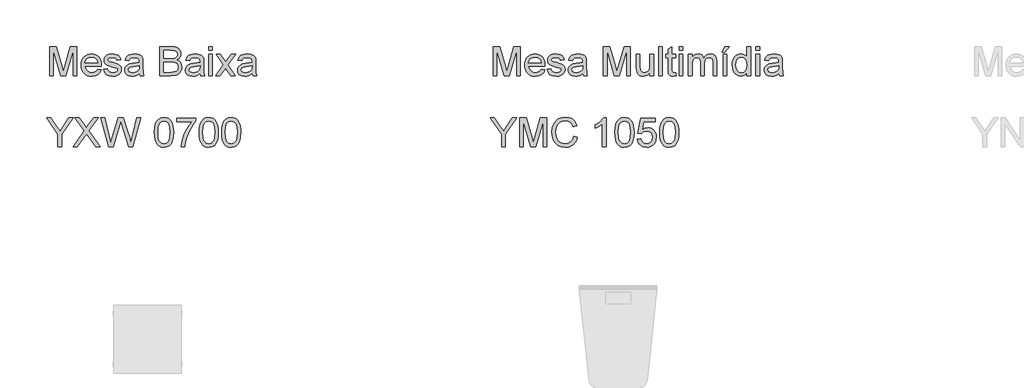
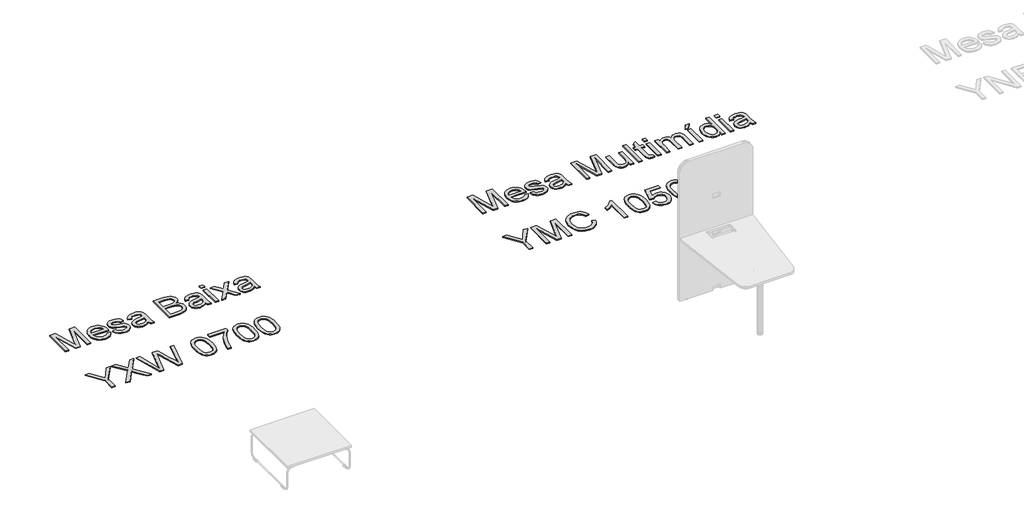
# One storey, part 23 of 26: 2 proxies.
"""IFC4 building model written with IfcOpenShell, lengths in millimetres."""

from ifc_helpers import new_model, si_unit, origin, origin_with_axes, place, context, project, spatial, polyline, outline, extrude, element, save

model = new_model("IFC4")

# Units and contexts
model_context = context("Model", 3, world=origin())
ifc_project = project(units=[si_unit("LENGTHUNIT", "METRE", prefix="MILLI")], contexts=[model_context])

# Site, building, storey
site = spatial("IfcSite", under=ifc_project)
building = spatial("IfcBuilding", under=site)
storey = spatial("IfcBuildingStorey", under=building, Name="Marelli - Linha YOUNG - Planta Baixa", Elevation=0.0)

# Proxies
placement = place(None, origin())
element("IfcBuildingElementProxy", 1, Name="300mm Arial", ObjectType="300mm Arial", at=placement, inside=storey, context=model_context, shape_type="SweptSolid", body=[
    extrude(outline(polyline([(-10155.2324867, 12585.3581335), (-10155.2324867, 12886.7270639), (-10090.4116792, 12886.7270639), (-10028.7546568, 12674.3119999), (-10016.3202454, 12629.9454313), (-10002.8557643, 12677.9908199), (-9942.2288115, 12886.7270639), (-9877.408004, 12886.7270639), (-9877.408004, 12585.3581335), (-9915.0791203, 12585.3581335), (-9915.0791203, 12849.0559476), (-9990.7892349, 12585.3581335), (-10041.8512558, 12585.3581335), (-10117.5613704, 12849.0559476), (-10117.5613704, 12585.3581335), (-10155.2324867, 12585.3581335)])), origin_with_axes(), (0.0, 0.0, 1.0), 10.0),
    extrude(outline(polyline([(-9661.2405436, 12651.282587), (-9624.3051913, 12646.5736975), (-9637.6133225, 12618.7434245), (-9658.8493107, 12597.9396977), (-9687.5349092, 12584.9718574), (-9723.1918716, 12580.6492439), (-9746.5661739, 12582.5139458), (-9767.3928933, 12588.1080514), (-9785.67203, 12597.4315607), (-9801.4035838, 12610.4844737), (-9814.0541259, 12626.903507), (-9823.0902274, 12646.3253771), (-9828.5118883, 12668.750084), (-9830.3191086, 12694.1776276), (-9828.4934942, 12720.4673947), (-9823.016651, 12743.6393619), (-9813.888579, 12763.6935292), (-9801.1092782, 12780.6298965), (-9785.4191111, 12794.0851805), (-9767.5584402, 12803.6960976), (-9747.5272656, 12809.4626479), (-9725.3255872, 12811.3848313), (-9703.8389794, 12809.4672464), (-9684.4079123, 12803.7144917), (-9667.0323858, 12794.1265672), (-9651.7123999, 12780.7034729), (-9639.2067114, 12763.8038938), (-9630.2740767, 12743.7865147), (-9624.9144959, 12720.6513357), (-9623.1279689, 12694.3983568), (-9623.3486981, 12684.2448138), (-9792.6479923, 12684.2448138), (-9786.1272839, 12656.0466588), (-9770.9797428, 12635.3165084), (-9749.1183552, 12622.5693973), (-9722.4561076, 12618.3203602), (-9702.4065389, 12620.2885289), (-9685.5207553, 12626.1930349), (-9671.7987569, 12636.4017603), (-9661.2405436, 12651.282587)]), holes=[polyline([(-9792.6479923, 12721.9159301), (-9660.7990852, 12721.9159301), (-9665.8942509, 12741.818346), (-9675.882247, 12756.0553792), (-9697.8448021, 12769.2991311), (-9725.47274, 12773.713715), (-9750.8657947, 12770.1912449), (-9771.8626596, 12759.6238346), (-9786.4583777, 12743.1519182), (-9792.6479923, 12721.9159301)])]), origin_with_axes(), (0.0, 0.0, 1.0), 10.0),
    extrude(outline(polyline([(-9599.5835212, 12651.282587), (-9561.9124049, 12655.9914765), (-9555.9711107, 12639.8782452), (-9544.4747984, 12628.0324449), (-9527.3498915, 12620.7483814), (-9504.5228137, 12618.3203602), (-9481.9716474, 12620.5460463), (-9466.1159334, 12627.2231045), (-9456.7349425, 12636.898401), (-9453.6079455, 12648.1188018), (-9456.7533366, 12657.7205219), (-9466.1895098, 12665.0413736), (-9504.9642721, 12675.7835279), (-9561.6916757, 12694.2144158), (-9576.0482706, 12703.4758451), (-9586.450134, 12715.7355126), (-9592.7685073, 12730.2116691), (-9594.8746317, 12746.1225654), (-9593.1823745, 12760.7182835), (-9588.105603, 12774.1919616), (-9580.1041696, 12786.0101707), (-9569.6379268, 12795.6394819), (-9545.6888089, 12806.7863064), (-9513.2784052, 12811.3848313), (-9488.7590702, 12809.5362243), (-9467.4403086, 12803.9904032), (-9450.2970076, 12795.289994), (-9438.3040545, 12783.9776227), (-9430.3578034, 12769.2163576), (-9425.3546083, 12750.1692673), (-9463.0257246, 12745.4603778), (-9467.7805994, 12757.3153751), (-9477.1891814, 12766.2457105), (-9491.3434412, 12771.8467139), (-9510.3353492, 12773.713715), (-9531.9668105, 12771.9294873), (-9546.3877847, 12766.5768043), (-9554.4995827, 12758.8512824), (-9557.2035154, 12749.9485381), (-9552.715355, 12738.9856547), (-9538.6622628, 12730.6715216), (-9506.2150709, 12722.6516941), (-9450.922407, 12704.9197819), (-9436.3174918, 12696.4401019), (-9425.2442437, 12684.833425), (-9418.2636829, 12670.0629629), (-9415.9368292, 12652.0919274), (-9418.668353, 12633.5138866), (-9426.8629245, 12616.0394919), (-9440.2078439, 12601.0391035), (-9458.3904115, 12589.883082), (-9480.3529666, 12582.9577034), (-9505.0378485, 12580.6492439), (-9543.0216645, 12585.1006161), (-9570.7415728, 12598.4547325), (-9589.2460372, 12620.5644404), (-9599.5835212, 12651.282587)])), origin_with_axes(), (0.0, 0.0, 1.0), 10.0),
    extrude(outline(polyline([(-9232.2901372, 12613.6114707), (-9250.2887639, 12598.178821), (-9268.8208194, 12588.0804602), (-9288.3093681, 12582.507048), (-9309.1774742, 12580.6492439), (-9340.658976, 12585.1190102), (-9363.8815269, 12598.5283089), (-9378.2013336, 12618.8905773), (-9382.9746025, 12644.2192527), (-9381.1719807, 12659.8358434), (-9375.7641154, 12674.0176943), (-9367.4223911, 12686.1578001), (-9356.8181926, 12695.6491556), (-9330.4410536, 12708.0099907), (-9297.8467088, 12713.6753734), (-9259.3294639, 12719.6350617), (-9232.5108664, 12726.6248196), (-9232.2901372, 12735.0125291), (-9234.8837053, 12751.8247363), (-9242.6644095, 12762.8244079), (-9260.0652279, 12770.9913882), (-9284.3086514, 12773.713715), (-9306.7494531, 12771.9018962), (-9322.4212261, 12766.4664397), (-9333.108198, 12756.4140642), (-9340.5945966, 12740.7514882), (-9378.2657129, 12745.4603778), (-9371.7266105, 12766.0617695), (-9361.9685405, 12782.2485773), (-9348.0809952, 12794.6278064), (-9329.1534666, 12803.8064622), (-9306.004492, 12809.490239), (-9279.452609, 12811.3848313), (-9253.9859779, 12809.7109682), (-9233.7984534, 12804.689379), (-9218.5773359, 12797.138601), (-9208.0099256, 12787.8771718), (-9201.0017736, 12776.4268447), (-9196.4584309, 12762.3093731), (-9194.6190209, 12729.3471464), (-9194.6190209, 12682.4789802), (-9192.7060346, 12617.0327733), (-9185.2012419, 12585.3581335), (-9222.8723582, 12585.3581335), (-9232.2901372, 12613.6114707)]), holes=[polyline([(-9232.2901372, 12688.9537033), (-9293.0642428, 12677.4022087), (-9325.4746466, 12671.2953675), (-9340.1531382, 12661.3625537), (-9345.3034862, 12646.8680031), (-9342.4983859, 12635.6659963), (-9334.0830853, 12626.4873405), (-9320.2415252, 12620.3621053), (-9301.1576467, 12618.3203602), (-9280.924137, 12620.5736375), (-9263.045072, 12627.3334691), (-9248.5505214, 12637.2938741), (-9238.4705548, 12649.1488714), (-9234.0007885, 12661.3625537), (-9232.5108664, 12678.2851254), (-9232.2901372, 12688.9537033)])]), origin_with_axes(), (0.0, 0.0, 1.0), 10.0),
    extrude(outline(polyline([(-9020.390108, 12585.3581335), (-9020.390108, 12886.7270639), (-8905.3901963, 12886.7270639), (-8873.7615418, 12884.5105749), (-8849.0674629, 12877.8611078), (-8830.1399342, 12866.6131158), (-8815.8109305, 12850.601052), (-8806.7886246, 12831.7654938), (-8803.7811893, 12812.0470189), (-8806.310378, 12793.9012395), (-8813.8979441, 12776.840712), (-8826.59907, 12761.9139), (-8844.4689379, 12750.1692673), (-8823.1225852, 12739.0224429), (-8807.3496446, 12722.0630829), (-8797.6099688, 12700.4132275), (-8794.3634102, 12675.1949167), (-8796.5798992, 12654.1796577), (-8803.2293663, 12634.691109), (-8813.1529831, 12618.1180251), (-8825.1919214, 12605.8491606), (-8839.9347923, 12596.9648104), (-8857.9702072, 12590.5452696), (-8906.2731131, 12585.3581335), (-9020.390108, 12585.3581335)]), holes=[polyline([(-8982.7189917, 12764.2959359), (-8913.9250586, 12764.2959359), (-8873.7523447, 12767.5332975), (-8859.6900555, 12773.1159068), (-8849.5824977, 12781.4760251), (-8843.4848536, 12792.4848938), (-8841.4523056, 12806.0137542), (-8843.3468978, 12819.1471414), (-8849.0306747, 12830.5882715), (-8858.2461186, 12839.5186069), (-8870.7357124, 12845.1196103), (-8919.1489829, 12849.0559476), (-8982.7189917, 12849.0559476), (-8982.7189917, 12764.2959359)]), polyline([(-8982.7189917, 12623.0292498), (-8905.4637727, 12623.0292498), (-8877.5047411, 12624.5007778), (-8853.8499288, 12632.7045462), (-8838.1781558, 12649.443177), (-8833.5704338, 12661.2705832), (-8832.0345265, 12674.8270347), (-8833.8371483, 12690.5723841), (-8839.2450136, 12704.1104415), (-8848.6903838, 12714.6962459), (-8862.6055203, 12721.5848363), (-8882.3147982, 12725.3648238), (-8909.1425927, 12726.6248196), (-8982.7189917, 12726.6248196), (-8982.7189917, 12623.0292498)])]), origin_with_axes(), (0.0, 0.0, 1.0), 10.0),
    extrude(outline(polyline([(-8606.0078287, 12613.6114707), (-8624.0064553, 12598.178821), (-8642.5385108, 12588.0804602), (-8662.0270595, 12582.507048), (-8682.8951656, 12580.6492439), (-8714.3766674, 12585.1190102), (-8737.5992183, 12598.5283089), (-8751.919025, 12618.8905773), (-8756.6922939, 12644.2192527), (-8754.8896721, 12659.8358434), (-8749.4818068, 12674.0176943), (-8741.1400825, 12686.1578001), (-8730.535884, 12695.6491556), (-8704.158745, 12708.0099907), (-8671.5644002, 12713.6753734), (-8633.0471553, 12719.6350617), (-8606.2285579, 12726.6248196), (-8606.0078287, 12735.0125291), (-8608.6013967, 12751.8247363), (-8616.3821009, 12762.8244079), (-8633.7829193, 12770.9913882), (-8658.0263428, 12773.713715), (-8680.4671445, 12771.9018962), (-8696.1389175, 12766.4664397), (-8706.8258894, 12756.4140642), (-8714.312288, 12740.7514882), (-8751.9834043, 12745.4603778), (-8745.4443019, 12766.0617695), (-8735.686232, 12782.2485773), (-8721.7986866, 12794.6278064), (-8702.871158, 12803.8064622), (-8679.7221834, 12809.490239), (-8653.1703004, 12811.3848313), (-8627.7036693, 12809.7109682), (-8607.5161448, 12804.689379), (-8592.2950273, 12797.138601), (-8581.727617, 12787.8771718), (-8574.719465, 12776.4268447), (-8570.1761223, 12762.3093731), (-8568.3367123, 12729.3471464), (-8568.3367123, 12682.4789802), (-8566.423726, 12617.0327733), (-8558.9189333, 12585.3581335), (-8596.5900496, 12585.3581335), (-8606.0078287, 12613.6114707)]), holes=[polyline([(-8606.0078287, 12688.9537033), (-8666.7819343, 12677.4022087), (-8699.192338, 12671.2953675), (-8713.8708296, 12661.3625537), (-8719.0211776, 12646.8680031), (-8716.2160774, 12635.6659963), (-8707.8007767, 12626.4873405), (-8693.9592167, 12620.3621053), (-8674.8753382, 12618.3203602), (-8654.6418284, 12620.5736375), (-8636.7627635, 12627.3334691), (-8622.2682128, 12637.2938741), (-8612.1882462, 12649.1488714), (-8607.7184799, 12661.3625537), (-8606.2285579, 12678.2851254), (-8606.0078287, 12688.9537033)])]), origin_with_axes(), (0.0, 0.0, 1.0), 10.0),
    extrude(outline(polyline([(-8516.5389274, 12849.0559476), (-8516.5389274, 12886.7270639), (-8478.8678111, 12886.7270639), (-8478.8678111, 12849.0559476), (-8516.5389274, 12849.0559476)])), origin_with_axes(), (0.0, 0.0, 1.0), 10.0),
    extrude(outline(polyline([(-8516.5389274, 12585.3581335), (-8516.5389274, 12806.6759418), (-8478.8678111, 12806.6759418), (-8478.8678111, 12585.3581335), (-8516.5389274, 12585.3581335)])), origin_with_axes(), (0.0, 0.0, 1.0), 10.0),
    extrude(outline(polyline([(-8445.9055844, 12585.3581335), (-8365.4130038, 12696.6056488), (-8441.1966948, 12806.6759418), (-8395.873633, 12806.6759418), (-8359.3061627, 12753.7009345), (-8342.2364381, 12728.6849588), (-8327.4475819, 12749.1391977), (-8285.8033401, 12806.6759418), (-8240.4802782, 12806.6759418), (-8320.089942, 12696.6056488), (-8243.4233342, 12585.3581335), (-8288.746396, 12585.3581335), (-8334.8787982, 12652.2390802), (-8343.3400841, 12664.4527624), (-8400.5825225, 12585.3581335), (-8445.9055844, 12585.3581335)])), origin_with_axes(), (0.0, 0.0, 1.0), 10.0),
    extrude(outline(polyline([(-8069.1944213, 12613.6114707), (-8087.1930479, 12598.178821), (-8105.7251034, 12588.0804602), (-8125.2136521, 12582.507048), (-8146.0817583, 12580.6492439), (-8177.56326, 12585.1190102), (-8200.785811, 12598.5283089), (-8215.1056176, 12618.8905773), (-8219.8788865, 12644.2192527), (-8218.0762647, 12659.8358434), (-8212.6683994, 12674.0176943), (-8204.3266752, 12686.1578001), (-8193.7224767, 12695.6491556), (-8167.3453376, 12708.0099907), (-8134.7509928, 12713.6753734), (-8096.2337479, 12719.6350617), (-8069.4151505, 12726.6248196), (-8069.1944213, 12735.0125291), (-8071.7879894, 12751.8247363), (-8079.5686936, 12762.8244079), (-8096.9695119, 12770.9913882), (-8121.2129354, 12773.713715), (-8143.6537371, 12771.9018962), (-8159.3255101, 12766.4664397), (-8170.0124821, 12756.4140642), (-8177.4988807, 12740.7514882), (-8215.169997, 12745.4603778), (-8208.6308945, 12766.0617695), (-8198.8728246, 12782.2485773), (-8184.9852793, 12794.6278064), (-8166.0577506, 12803.8064622), (-8142.9087761, 12809.490239), (-8116.3568931, 12811.3848313), (-8090.890262, 12809.7109682), (-8070.7027375, 12804.689379), (-8055.4816199, 12797.138601), (-8044.9142096, 12787.8771718), (-8037.9060576, 12776.4268447), (-8033.362715, 12762.3093731), (-8031.523305, 12729.3471464), (-8031.523305, 12682.4789802), (-8029.6103186, 12617.0327733), (-8022.1055259, 12585.3581335), (-8059.7766422, 12585.3581335), (-8069.1944213, 12613.6114707)]), holes=[polyline([(-8069.1944213, 12688.9537033), (-8129.9685269, 12677.4022087), (-8162.3789307, 12671.2953675), (-8177.0574223, 12661.3625537), (-8182.2077702, 12646.8680031), (-8179.40267, 12635.6659963), (-8170.9873694, 12626.4873405), (-8157.1458093, 12620.3621053), (-8138.0619308, 12618.3203602), (-8117.8284211, 12620.5736375), (-8099.9493561, 12627.3334691), (-8085.4548055, 12637.2938741), (-8075.3748388, 12649.1488714), (-8070.9050726, 12661.3625537), (-8069.4151505, 12678.2851254), (-8069.1944213, 12688.9537033)])]), origin_with_axes(), (0.0, 0.0, 1.0), 10.0),
    extrude(outline(polyline([(-9915.0791203, 11853.5092264), (-9798.9019862, 12017.731749), (-9896.2435621, 12154.8781568), (-9851.0676531, 12154.8781568), (-9796.2532358, 12077.6965143), (-9777.7855597, 12047.6037671), (-9756.1540984, 12078.2115491), (-9701.9282923, 12154.8781568), (-9656.0901957, 12154.8781568), (-9753.4317716, 12017.2902906), (-9637.2546375, 11853.5092264), (-9682.4305465, 11853.5092264), (-9759.8329183, 11962.6966026), (-9775.9461497, 11985.3581335), (-9793.6780619, 11960.4893106), (-9869.2410237, 11853.5092264), (-9915.0791203, 11853.5092264)])), origin_with_axes(), (0.0, 0.0, 1.0), 10.0),
    extrude(outline(polyline([(-10070.4724751, 11853.5092264), (-10070.4724751, 11981.1642787), (-10188.1947135, 12154.8781568), (-10143.7545685, 12154.8781568), (-10080.9203237, 12062.0983177), (-10048.7674373, 12014.7886931), (-10016.5409746, 12065.482832), (-9959.5192653, 12154.8781568), (-9915.0791203, 12154.8781568), (-10032.8013587, 11981.1642787), (-10032.8013587, 11853.5092264), (-10070.4724751, 11853.5092264)])), origin_with_axes(), (0.0, 0.0, 1.0), 10.0),
    extrude(outline(polyline([(-9545.6520207, 11853.5092264), (-9627.8368585, 12154.8781568), (-9588.9885198, 12154.8781568), (-9541.3110132, 11956.8104906), (-9526.5957334, 11895.668503), (-9510.850384, 11949.7471563), (-9451.106348, 12154.8781568), (-9395.1147083, 12154.8781568), (-9351.7046329, 12006.1802544), (-9333.108198, 11950.9979551), (-9319.4045937, 11895.668503), (-9305.1307723, 11955.0446571), (-9257.0118073, 12154.8781568), (-9218.1634686, 12154.8781568), (-9300.4218828, 11853.5092264), (-9340.668173, 11853.5092264), (-9412.9201969, 12086.0106473), (-9423.0001635, 12118.4578393), (-9434.330929, 12079.3887714), (-9500.1818061, 11853.5092264), (-9545.6520207, 11853.5092264)])), origin_with_axes(), (0.0, 0.0, 1.0), 10.0),
    extrude(outline(polyline([(-9076.8967825, 12001.7656705), (-9074.1284705, 12050.0041971), (-9065.8235344, 12088.4754567), (-9052.0647478, 12117.7680606), (-9032.9348841, 12138.4706199), (-9008.2959874, 12150.7762726), (-8978.0101022, 12154.8781568), (-8954.7967483, 12152.4501357), (-8934.0114156, 12145.1660722), (-8916.6289913, 12133.3110749), (-8903.6243628, 12117.1702523), (-8893.8019135, 12096.8815603), (-8885.966027, 12072.5829545), (-8880.8340732, 12041.7268522), (-8879.1234219, 12001.7656705), (-8881.8641427, 11953.8030553), (-8890.0863053, 11915.4237662), (-8903.7623185, 11886.1035712), (-8922.8645911, 11865.3182384), (-8947.55867, 11852.9298123), (-8978.0101022, 11848.8003369), (-8998.7586467, 11850.5937616), (-9017.1527465, 11855.9740358), (-9033.1924015, 11864.9411594), (-9046.8776117, 11877.4951325), (-9060.0109989, 11900.1888531), (-9069.3919898, 11928.4651829), (-9075.0205843, 11962.324122), (-9076.8967825, 12001.7656705)]), holes=[polyline([(-9039.2256662, 12001.8392469), (-9034.8110822, 11942.5826545), (-9029.2928523, 11922.3146558), (-9021.5673304, 11908.2868555), (-9001.8488555, 11891.9253037), (-8978.0101022, 11886.4714532), (-8954.1713489, 11891.9436978), (-8934.4528739, 11908.3604319), (-8926.727352, 11922.4112248), (-8921.2091221, 11942.674625), (-8916.7945382, 12001.8392469), (-8921.0619693, 12059.762267), (-8926.3962583, 12079.9635871), (-8933.8642628, 12094.3247804), (-8953.5459495, 12111.4864755), (-8978.4515606, 12117.2070405), (-9002.0327965, 12112.1670572), (-9020.9787192, 12097.0471072), (-9028.9617585, 12081.4121224), (-9034.6639294, 12060.3324841), (-9039.2256662, 12001.8392469)])]), origin_with_axes(), (0.0, 0.0, 1.0), 10.0),
    extrude(outline(polyline([(-8846.1611951, 12112.498151), (-8846.1611951, 12150.1692673), (-8648.3878345, 12150.1692673), (-8648.3878345, 12119.7086381), (-8676.5767924, 12084.0332816), (-8704.4898388, 12038.6642346), (-8729.1103413, 11987.7401694), (-8747.4216676, 11935.3997585), (-8756.3979883, 11896.2387201), (-8761.4011834, 11853.5092264), (-8799.0722997, 11853.5092264), (-8794.9980066, 11892.339171), (-8784.0995025, 11938.4899673), (-8766.671093, 11987.4090756), (-8743.0070837, 12034.5439562), (-8715.3791458, 12077.1538883), (-8686.0589508, 12112.498151), (-8846.1611951, 12112.498151)])), origin_with_axes(), (0.0, 0.0, 1.0), 10.0),
    extrude(outline(polyline([(-8615.4256077, 12001.7656705), (-8612.6572957, 12050.0041971), (-8604.3523597, 12088.4754567), (-8590.5935731, 12117.7680606), (-8571.4637093, 12138.4706199), (-8546.8248127, 12150.7762726), (-8516.5389274, 12154.8781568), (-8493.3255735, 12152.4501357), (-8472.5402408, 12145.1660722), (-8455.1578165, 12133.3110749), (-8442.153188, 12117.1702523), (-8432.3307387, 12096.8815603), (-8424.4948522, 12072.5829545), (-8419.3628984, 12041.7268522), (-8417.6522471, 12001.7656705), (-8420.392968, 11953.8030553), (-8428.6151306, 11915.4237662), (-8442.2911438, 11886.1035712), (-8461.3934164, 11865.3182384), (-8486.0874953, 11852.9298123), (-8516.5389274, 11848.8003369), (-8537.287472, 11850.5937616), (-8555.6815717, 11855.9740358), (-8571.7212267, 11864.9411594), (-8585.4064369, 11877.4951325), (-8598.5398242, 11900.1888531), (-8607.920815, 11928.4651829), (-8613.5494096, 11962.324122), (-8615.4256077, 12001.7656705)]), holes=[polyline([(-8577.7544914, 12001.8392469), (-8573.3399075, 11942.5826545), (-8567.8216776, 11922.3146558), (-8560.0961557, 11908.2868555), (-8540.3776807, 11891.9253037), (-8516.5389274, 11886.4714532), (-8492.7001741, 11891.9436978), (-8472.9816992, 11908.3604319), (-8465.2561773, 11922.4112248), (-8459.7379474, 11942.674625), (-8455.3233634, 12001.8392469), (-8459.5907946, 12059.762267), (-8464.9250835, 12079.9635871), (-8472.393088, 12094.3247804), (-8492.0747747, 12111.4864755), (-8516.9803858, 12117.2070405), (-8540.5616217, 12112.1670572), (-8559.5075445, 12097.0471072), (-8567.4905838, 12081.4121224), (-8573.1927547, 12060.3324841), (-8577.7544914, 12001.8392469)])]), origin_with_axes(), (0.0, 0.0, 1.0), 10.0),
    extrude(outline(polyline([(-8384.6900204, 12001.7656705), (-8381.9217083, 12050.0041971), (-8373.6167723, 12088.4754567), (-8359.8579857, 12117.7680606), (-8340.7281219, 12138.4706199), (-8316.0892253, 12150.7762726), (-8285.8033401, 12154.8781568), (-8262.5899862, 12152.4501357), (-8241.8046534, 12145.1660722), (-8224.4222292, 12133.3110749), (-8211.4176006, 12117.1702523), (-8201.5951514, 12096.8815603), (-8193.7592649, 12072.5829545), (-8188.627311, 12041.7268522), (-8186.9166597, 12001.7656705), (-8189.6573806, 11953.8030553), (-8197.8795432, 11915.4237662), (-8211.5555564, 11886.1035712), (-8230.657829, 11865.3182384), (-8255.3519079, 11852.9298123), (-8285.8033401, 11848.8003369), (-8306.5518846, 11850.5937616), (-8324.9459843, 11855.9740358), (-8340.9856393, 11864.9411594), (-8354.6708495, 11877.4951325), (-8367.8042368, 11900.1888531), (-8377.1852277, 11928.4651829), (-8382.8138222, 11962.324122), (-8384.6900204, 12001.7656705)]), holes=[polyline([(-8347.018904, 12001.8392469), (-8342.6043201, 11942.5826545), (-8337.0860902, 11922.3146558), (-8329.3605683, 11908.2868555), (-8309.6420933, 11891.9253037), (-8285.8033401, 11886.4714532), (-8261.9645868, 11891.9436978), (-8242.2461118, 11908.3604319), (-8234.5205899, 11922.4112248), (-8229.00236, 11942.674625), (-8224.5877761, 12001.8392469), (-8228.8552072, 12059.762267), (-8234.1894961, 12079.9635871), (-8241.6575006, 12094.3247804), (-8261.3391874, 12111.4864755), (-8286.2447984, 12117.2070405), (-8309.8260343, 12112.1670572), (-8328.7719571, 12097.0471072), (-8336.7549964, 12081.4121224), (-8342.4571673, 12060.3324841), (-8347.018904, 12001.8392469)])]), origin_with_axes(), (0.0, 0.0, 1.0), 10.0),
])
element("IfcBuildingElementProxy", 2, Name="300mm Arial", ObjectType="300mm Arial", at=placement, inside=storey, context=model_context, shape_type="SweptSolid", body=[
    extrude(outline(polyline([(-5583.7414347, 12585.3581335), (-5583.7414347, 12886.7270639), (-5518.9206272, 12886.7270639), (-5457.2636048, 12674.3119999), (-5444.8291933, 12629.9454313), (-5431.3647123, 12677.9908199), (-5370.7377595, 12886.7270639), (-5305.916952, 12886.7270639), (-5305.916952, 12585.3581335), (-5343.5880683, 12585.3581335), (-5343.5880683, 12849.0559476), (-5419.2981829, 12585.3581335), (-5470.3602038, 12585.3581335), (-5546.0703184, 12849.0559476), (-5546.0703184, 12585.3581335), (-5583.7414347, 12585.3581335)])), origin_with_axes(), (0.0, 0.0, 1.0), 10.0),
    extrude(outline(polyline([(-5089.7494916, 12651.282587), (-5052.8141393, 12646.5736975), (-5066.1222705, 12618.7434245), (-5087.3582586, 12597.9396977), (-5116.0438572, 12584.9718574), (-5151.7008196, 12580.6492439), (-5175.0751219, 12582.5139458), (-5195.9018413, 12588.1080514), (-5214.1809779, 12597.4315607), (-5229.9125318, 12610.4844737), (-5242.5630739, 12626.903507), (-5251.5991754, 12646.3253771), (-5257.0208363, 12668.750084), (-5258.8280566, 12694.1776276), (-5257.0024422, 12720.4673947), (-5251.525599, 12743.6393619), (-5242.397527, 12763.6935292), (-5229.6182262, 12780.6298965), (-5213.9280591, 12794.0851805), (-5196.0673882, 12803.6960976), (-5176.0362136, 12809.4626479), (-5153.8345352, 12811.3848313), (-5132.3479274, 12809.4672464), (-5112.9168602, 12803.7144917), (-5095.5413338, 12794.1265672), (-5080.2213479, 12780.7034729), (-5067.7156594, 12763.8038938), (-5058.7830247, 12743.7865147), (-5053.4234438, 12720.6513357), (-5051.6369169, 12694.3983568), (-5051.8576461, 12684.2448138), (-5221.1569403, 12684.2448138), (-5214.6362319, 12656.0466588), (-5199.4886908, 12635.3165084), (-5177.6273032, 12622.5693973), (-5150.9650556, 12618.3203602), (-5130.9154869, 12620.2885289), (-5114.0297033, 12626.1930349), (-5100.3077049, 12636.4017603), (-5089.7494916, 12651.282587)]), holes=[polyline([(-5221.1569403, 12721.9159301), (-5089.3080332, 12721.9159301), (-5094.4031988, 12741.818346), (-5104.391195, 12756.0553792), (-5126.3537501, 12769.2991311), (-5153.981688, 12773.713715), (-5179.3747427, 12770.1912449), (-5200.3716076, 12759.6238346), (-5214.9673257, 12743.1519182), (-5221.1569403, 12721.9159301)])]), origin_with_axes(), (0.0, 0.0, 1.0), 10.0),
    extrude(outline(polyline([(-5028.0924692, 12651.282587), (-4990.4213529, 12655.9914765), (-4984.4800587, 12639.8782452), (-4972.9837463, 12628.0324449), (-4955.8588395, 12620.7483814), (-4933.0317617, 12618.3203602), (-4910.4805954, 12620.5460463), (-4894.6248814, 12627.2231045), (-4885.2438905, 12636.898401), (-4882.1168935, 12648.1188018), (-4885.2622846, 12657.7205219), (-4894.6984578, 12665.0413736), (-4933.4732201, 12675.7835279), (-4990.2006237, 12694.2144158), (-5004.5572186, 12703.4758451), (-5014.959082, 12715.7355126), (-5021.2774552, 12730.2116691), (-5023.3835797, 12746.1225654), (-5021.6913225, 12760.7182835), (-5016.614551, 12774.1919616), (-5008.6131176, 12786.0101707), (-4998.1468748, 12795.6394819), (-4974.1977569, 12806.7863064), (-4941.7873531, 12811.3848313), (-4917.2680182, 12809.5362243), (-4895.9492565, 12803.9904032), (-4878.8059556, 12795.289994), (-4866.8130025, 12783.9776227), (-4858.8667514, 12769.2163576), (-4853.8635563, 12750.1692673), (-4891.5346726, 12745.4603778), (-4896.2895474, 12757.3153751), (-4905.6981294, 12766.2457105), (-4919.8523892, 12771.8467139), (-4938.8442972, 12773.713715), (-4960.4757585, 12771.9294873), (-4974.8967327, 12766.5768043), (-4983.0085307, 12758.8512824), (-4985.7124634, 12749.9485381), (-4981.224303, 12738.9856547), (-4967.1712108, 12730.6715216), (-4934.7240188, 12722.6516941), (-4879.431355, 12704.9197819), (-4864.8264398, 12696.4401019), (-4853.7531917, 12684.833425), (-4846.7726308, 12670.0629629), (-4844.4457772, 12652.0919274), (-4847.177301, 12633.5138866), (-4855.3718725, 12616.0394919), (-4868.7167918, 12601.0391035), (-4886.8993595, 12589.883082), (-4908.8619146, 12582.9577034), (-4933.5467964, 12580.6492439), (-4971.5306125, 12585.1006161), (-4999.2505208, 12598.4547325), (-5017.7549851, 12620.5644404), (-5028.0924692, 12651.282587)])), origin_with_axes(), (0.0, 0.0, 1.0), 10.0),
    extrude(outline(polyline([(-4660.7990852, 12613.6114707), (-4678.7977118, 12598.178821), (-4697.3297673, 12588.0804602), (-4716.818316, 12582.507048), (-4737.6864222, 12580.6492439), (-4769.167924, 12585.1190102), (-4792.3904749, 12598.5283089), (-4806.7102816, 12618.8905773), (-4811.4835505, 12644.2192527), (-4809.6809287, 12659.8358434), (-4804.2730633, 12674.0176943), (-4795.9313391, 12686.1578001), (-4785.3271406, 12695.6491556), (-4758.9500015, 12708.0099907), (-4726.3556568, 12713.6753734), (-4687.8384119, 12719.6350617), (-4661.0198144, 12726.6248196), (-4660.7990852, 12735.0125291), (-4663.3926533, 12751.8247363), (-4671.1733575, 12762.8244079), (-4688.5741759, 12770.9913882), (-4712.8175993, 12773.713715), (-4735.258401, 12771.9018962), (-4750.930174, 12766.4664397), (-4761.617146, 12756.4140642), (-4769.1035446, 12740.7514882), (-4806.7746609, 12745.4603778), (-4800.2355584, 12766.0617695), (-4790.4774885, 12782.2485773), (-4776.5899432, 12794.6278064), (-4757.6624146, 12803.8064622), (-4734.51344, 12809.490239), (-4707.961557, 12811.3848313), (-4682.4949259, 12809.7109682), (-4662.3074014, 12804.689379), (-4647.0862839, 12797.138601), (-4636.5188735, 12787.8771718), (-4629.5107215, 12776.4268447), (-4624.9673789, 12762.3093731), (-4623.1279689, 12729.3471464), (-4623.1279689, 12682.4789802), (-4621.2149825, 12617.0327733), (-4613.7101898, 12585.3581335), (-4651.3813061, 12585.3581335), (-4660.7990852, 12613.6114707)]), holes=[polyline([(-4660.7990852, 12688.9537033), (-4721.5731908, 12677.4022087), (-4753.9835946, 12671.2953675), (-4768.6620862, 12661.3625537), (-4773.8124341, 12646.8680031), (-4771.0073339, 12635.6659963), (-4762.5920333, 12626.4873405), (-4748.7504732, 12620.3621053), (-4729.6665947, 12618.3203602), (-4709.433085, 12620.5736375), (-4691.55402, 12627.3334691), (-4677.0594694, 12637.2938741), (-4666.9795027, 12649.1488714), (-4662.5097365, 12661.3625537), (-4661.0198144, 12678.2851254), (-4660.7990852, 12688.9537033)])]), origin_with_axes(), (0.0, 0.0, 1.0), 10.0),
    extrude(outline(polyline([(-4448.899056, 12585.3581335), (-4448.899056, 12886.7270639), (-4384.0782485, 12886.7270639), (-4322.4212261, 12674.3119999), (-4309.9868146, 12629.9454313), (-4296.5223336, 12677.9908199), (-4235.8953808, 12886.7270639), (-4171.0745732, 12886.7270639), (-4171.0745732, 12585.3581335), (-4208.7456896, 12585.3581335), (-4208.7456896, 12849.0559476), (-4284.4558042, 12585.3581335), (-4335.5178251, 12585.3581335), (-4411.2279397, 12849.0559476), (-4411.2279397, 12585.3581335), (-4448.899056, 12585.3581335)])), origin_with_axes(), (0.0, 0.0, 1.0), 10.0),
    extrude(outline(polyline([(-3968.5923231, 12585.3581335), (-3968.5923231, 12623.3971318), (-3982.222351, 12604.6949308), (-3998.0964591, 12591.3362159), (-4016.2146474, 12583.3209869), (-4036.5769158, 12580.6492439), (-4054.9250303, 12582.5254421), (-4072.0039519, 12588.1540366), (-4086.3329557, 12596.6153225), (-4096.4313164, 12606.9895948), (-4107.6517173, 12634.7278972), (-4109.8590092, 12669.7502632), (-4109.8590092, 12806.6759418), (-4072.1878929, 12806.6759418), (-4072.1878929, 12687.4821753), (-4069.9070246, 12649.075295), (-4064.4163858, 12636.2638046), (-4055.0078038, 12626.5241287), (-4042.3066779, 12620.3713024), (-4026.9384075, 12618.3203602), (-4010.6872204, 12620.4172876), (-3995.4844969, 12626.7080697), (-3982.948918, 12636.6132924), (-3974.6991642, 12649.5535416), (-3970.1190334, 12667.2762567), (-3968.5923231, 12691.5288773), (-3968.5923231, 12806.6759418), (-3930.9212068, 12806.6759418), (-3930.9212068, 12585.3581335), (-3968.5923231, 12585.3581335)])), origin_with_axes(), (0.0, 0.0, 1.0), 10.0),
    extrude(outline(polyline([(-3879.1234219, 12585.3581335), (-3879.1234219, 12886.7270639), (-3841.4523056, 12886.7270639), (-3841.4523056, 12585.3581335), (-3879.1234219, 12585.3581335)])), origin_with_axes(), (0.0, 0.0, 1.0), 10.0),
    extrude(outline(polyline([(-3704.894509, 12616.7752559), (-3700.1856194, 12584.2544875), (-3728.3653803, 12580.6492439), (-3746.4467803, 12582.2127424), (-3759.9296554, 12586.9032378), (-3769.4577991, 12594.1321191), (-3775.6750048, 12603.3107748), (-3779.0963074, 12619.0745183), (-3780.2367416, 12646.0586627), (-3780.2367416, 12769.0048255), (-3808.4900788, 12769.0048255), (-3808.4900788, 12806.6759418), (-3780.2367416, 12806.6759418), (-3780.2367416, 12860.4602895), (-3742.5656253, 12882.6067856), (-3742.5656253, 12806.6759418), (-3704.894509, 12806.6759418), (-3704.894509, 12769.0048255), (-3742.5656253, 12769.0048255), (-3742.5656253, 12647.1623087), (-3740.5790625, 12627.7381393), (-3734.1411276, 12620.858746), (-3721.3020459, 12618.3203602), (-3704.894509, 12616.7752559)])), origin_with_axes(), (0.0, 0.0, 1.0), 10.0),
    extrude(outline(polyline([(-3667.2233927, 12849.0559476), (-3667.2233927, 12886.7270639), (-3629.5522763, 12886.7270639), (-3629.5522763, 12849.0559476), (-3667.2233927, 12849.0559476)])), origin_with_axes(), (0.0, 0.0, 1.0), 10.0),
    extrude(outline(polyline([(-3667.2233927, 12585.3581335), (-3667.2233927, 12806.6759418), (-3629.5522763, 12806.6759418), (-3629.5522763, 12585.3581335), (-3667.2233927, 12585.3581335)])), origin_with_axes(), (0.0, 0.0, 1.0), 10.0),
    extrude(outline(polyline([(-3573.0456019, 12585.3581335), (-3573.0456019, 12806.6759418), (-3535.3744856, 12806.6759418), (-3535.3744856, 12770.2556242), (-3524.0437201, 12786.985058), (-3509.4755931, 12800.0908541), (-3492.1667452, 12808.561337), (-3472.6138172, 12811.3848313), (-3451.6629376, 12808.5061547), (-3434.8691245, 12799.8701249), (-3422.3243485, 12786.0469589), (-3414.12058, 12767.6068739), (-3400.3893845, 12786.7597303), (-3384.7268086, 12800.4403419), (-3367.1328521, 12808.648709), (-3347.6075152, 12811.3848313), (-3319.2897987, 12806.8322916), (-3298.3481161, 12793.1746725), (-3285.4078669, 12770.0440921), (-3281.0944505, 12737.0726683), (-3281.0944505, 12585.3581335), (-3318.7655668, 12585.3581335), (-3318.7655668, 12720.8858605), (-3322.2604458, 12752.3397711), (-3327.1716704, 12761.0125891), (-3334.9155864, 12767.8276031), (-3344.8759914, 12772.242187), (-3356.4366831, 12773.713715), (-3376.8449368, 12769.9429245), (-3393.4824, 12758.6305532), (-3404.546451, 12739.0040488), (-3408.234468, 12710.290859), (-3408.234468, 12585.3581335), (-3445.9055844, 12585.3581335), (-3445.9055844, 12725.0797152), (-3448.0852852, 12746.3800828), (-3454.6243876, 12761.5736092), (-3466.129897, 12770.6786885), (-3483.2088187, 12773.713715), (-3497.7217634, 12771.690364), (-3511.0942739, 12765.6203111), (-3522.1307338, 12755.650709), (-3529.6355265, 12741.9287106), (-3533.9397458, 12722.8908174), (-3535.3744856, 12696.9735308), (-3535.3744856, 12585.3581335), (-3573.0456019, 12585.3581335)])), origin_with_axes(), (0.0, 0.0, 1.0), 10.0),
    extrude(outline(polyline([(-3215.169997, 12585.3581335), (-3215.169997, 12806.6759418), (-3177.4988807, 12806.6759418), (-3177.4988807, 12585.3581335), (-3215.169997, 12585.3581335)])), origin_with_axes(), (0.0, 0.0, 1.0), 10.0),
    extrude(outline(polyline([(-3224.5877761, 12830.2203895), (-3196.3344388, 12886.7270639), (-3149.2455434, 12886.7270639), (-3196.3344388, 12830.2203895), (-3224.5877761, 12830.2203895)])), origin_with_axes(), (0.0, 0.0, 1.0), 10.0),
    extrude(outline(polyline([(-2970.307741, 12585.3581335), (-2970.307741, 12620.8955342), (-2981.5787256, 12603.2877822), (-2995.2317462, 12590.7108165), (-3011.2668026, 12583.1646371), (-3029.683895, 12580.6492439), (-3054.0376831, 12584.2912757), (-3076.331332, 12595.2173709), (-3095.2036784, 12612.6641746), (-3109.2935588, 12635.8683314), (-3118.0675444, 12663.8917424), (-3120.9922062, 12695.7963084), (-3118.2974706, 12727.3054013), (-3110.2132638, 12755.7610736), (-3096.7487827, 12779.5446446), (-3077.9132246, 12797.0374335), (-3055.132132, 12807.7979819), (-3029.8310478, 12811.3848313), (-3011.4001599, 12808.8188544), (-2995.1029875, 12801.1209236), (-2981.2890185, 12789.3211086), (-2970.307741, 12774.449479), (-2970.307741, 12886.7270639), (-2932.6366247, 12886.7270639), (-2932.6366247, 12585.3581335), (-2970.307741, 12585.3581335)]), holes=[polyline([(-3083.3210899, 12695.9434612), (-3079.0720529, 12661.8683914), (-3066.3249417, 12637.634165), (-3047.8020833, 12623.1488114), (-3026.2258043, 12618.3203602), (-3004.6587223, 12622.9280822), (-2986.6049134, 12636.7512482), (-2974.3820341, 12660.0473755), (-2970.307741, 12693.0739817), (-2974.4556105, 12729.1815995), (-2986.899219, 12754.2159693), (-3005.4128804, 12768.8392786), (-3027.7709086, 12773.713715), (-3049.5679169, 12769.0324166), (-3067.4285877, 12754.9885214), (-3079.3479644, 12730.8646596), (-3083.3210899, 12695.9434612)])]), origin_with_axes(), (0.0, 0.0, 1.0), 10.0),
    extrude(outline(polyline([(-2876.1299502, 12849.0559476), (-2876.1299502, 12886.7270639), (-2838.4588339, 12886.7270639), (-2838.4588339, 12849.0559476), (-2876.1299502, 12849.0559476)])), origin_with_axes(), (0.0, 0.0, 1.0), 10.0),
    extrude(outline(polyline([(-2876.1299502, 12585.3581335), (-2876.1299502, 12806.6759418), (-2838.4588339, 12806.6759418), (-2838.4588339, 12585.3581335), (-2876.1299502, 12585.3581335)])), origin_with_axes(), (0.0, 0.0, 1.0), 10.0),
    extrude(outline(polyline([(-2640.6854733, 12613.6114707), (-2658.6840999, 12598.178821), (-2677.2161554, 12588.0804602), (-2696.7047041, 12582.507048), (-2717.5728103, 12580.6492439), (-2749.054312, 12585.1190102), (-2772.276863, 12598.5283089), (-2786.5966696, 12618.8905773), (-2791.3699385, 12644.2192527), (-2789.5673168, 12659.8358434), (-2784.1594514, 12674.0176943), (-2775.8177272, 12686.1578001), (-2765.2135287, 12695.6491556), (-2738.8363896, 12708.0099907), (-2706.2420449, 12713.6753734), (-2667.7248, 12719.6350617), (-2640.9062025, 12726.6248196), (-2640.6854733, 12735.0125291), (-2643.2790414, 12751.8247363), (-2651.0597456, 12762.8244079), (-2668.4605639, 12770.9913882), (-2692.7039874, 12773.713715), (-2715.1447891, 12771.9018962), (-2730.8165621, 12766.4664397), (-2741.5035341, 12756.4140642), (-2748.9899327, 12740.7514882), (-2786.661049, 12745.4603778), (-2780.1219465, 12766.0617695), (-2770.3638766, 12782.2485773), (-2756.4763313, 12794.6278064), (-2737.5488026, 12803.8064622), (-2714.3998281, 12809.490239), (-2687.8479451, 12811.3848313), (-2662.381314, 12809.7109682), (-2642.1937895, 12804.689379), (-2626.9726719, 12797.138601), (-2616.4052616, 12787.8771718), (-2609.3971096, 12776.4268447), (-2604.853767, 12762.3093731), (-2603.014357, 12729.3471464), (-2603.014357, 12682.4789802), (-2601.1013706, 12617.0327733), (-2593.5965779, 12585.3581335), (-2631.2676942, 12585.3581335), (-2640.6854733, 12613.6114707)]), holes=[polyline([(-2640.6854733, 12688.9537033), (-2701.4595789, 12677.4022087), (-2733.8699827, 12671.2953675), (-2748.5484743, 12661.3625537), (-2753.6988222, 12646.8680031), (-2750.893722, 12635.6659963), (-2742.4784214, 12626.4873405), (-2728.6368613, 12620.3621053), (-2709.5529828, 12618.3203602), (-2689.3194731, 12620.5736375), (-2671.4404081, 12627.3334691), (-2656.9458575, 12637.2938741), (-2646.8658908, 12649.1488714), (-2642.3961246, 12661.3625537), (-2640.9062025, 12678.2851254), (-2640.6854733, 12688.9537033)])]), origin_with_axes(), (0.0, 0.0, 1.0), 10.0),
    extrude(outline(polyline([(-5498.981423, 11853.5092264), (-5498.981423, 11981.1642787), (-5616.7036615, 12154.8781568), (-5572.2635165, 12154.8781568), (-5509.4292717, 12062.0983177), (-5477.2763853, 12014.7886931), (-5445.0499225, 12065.482832), (-5388.0282133, 12154.8781568), (-5343.5880683, 12154.8781568), (-5461.3103067, 11981.1642787), (-5461.3103067, 11853.5092264), (-5498.981423, 11853.5092264)])), origin_with_axes(), (0.0, 0.0, 1.0), 10.0),
    extrude(outline(polyline([(-5310.6258415, 11853.5092264), (-5310.6258415, 12154.8781568), (-5245.805034, 12154.8781568), (-5184.1480116, 11942.4630928), (-5171.7136001, 11898.0965242), (-5158.2491191, 11946.1419128), (-5097.6221663, 12154.8781568), (-5032.8013587, 12154.8781568), (-5032.8013587, 11853.5092264), (-5070.4724751, 11853.5092264), (-5070.4724751, 12117.2070405), (-5146.1825897, 11853.5092264), (-5197.2446106, 11853.5092264), (-5272.9547252, 12117.2070405), (-5272.9547252, 11853.5092264), (-5310.6258415, 11853.5092264)])), origin_with_axes(), (0.0, 0.0, 1.0), 10.0),
    extrude(outline(polyline([(-4754.976876, 11960.6364634), (-4717.3057597, 11950.9243787), (-4724.7599686, 11927.4971934), (-4734.688184, 11907.0268596), (-4747.0904057, 11889.5133774), (-4761.9666339, 11874.9567467), (-4778.9811762, 11863.5133174), (-4797.7983402, 11855.3394393), (-4818.4181261, 11850.4351125), (-4840.8405337, 11848.8003369), (-4884.5357176, 11853.7483497), (-4919.2361868, 11868.5923882), (-4945.8340551, 11892.8174176), (-4965.2214362, 11925.908403), (-4977.0580394, 11964.811924), (-4981.0035738, 12006.47456), (-4976.5430046, 12050.4180643), (-4963.1612971, 12088.3650921), (-4941.5574269, 12119.1108299), (-4912.4303699, 12141.450464), (-4877.8862506, 12155.0529008), (-4840.0311933, 12159.5870464), (-4798.7272423, 12153.7193286), (-4780.7585061, 12146.3846813), (-4764.5785961, 12136.1161751), (-4750.4542267, 12123.185123), (-4738.6521125, 12107.8628379), (-4722.0146492, 12070.0445688), (-4759.6857655, 12061.0682481), (-4772.7455764, 12088.5398361), (-4790.5878531, 12107.3845913), (-4813.433325, 12118.2830954), (-4841.5027213, 12121.9159301), (-4873.8579427, 12117.8876222), (-4900.4374169, 12105.8026987), (-4920.6065473, 12086.9303523), (-4933.7307374, 12062.5397761), (-4940.9320275, 12034.9670205), (-4943.3324575, 12006.5481364), (-4940.4905691, 11971.7464996), (-4931.9649039, 11941.6537524), (-4917.4335651, 11917.419526), (-4896.5746559, 11900.1934516), (-4871.5678773, 11889.9019528), (-4844.59293, 11886.4714532), (-4813.1482165, 11891.1435545), (-4786.9458214, 11905.1598585), (-4767.1629671, 11928.3732124), (-4754.976876, 11960.6364634)])), origin_with_axes(), (0.0, 0.0, 1.0), 10.0),
    extrude(outline(polyline([(-4420.6457188, 11853.5092264), (-4458.3168351, 11853.5092264), (-4458.3168351, 12088.3650921), (-4494.0013886, 12062.9444463), (-4533.6590677, 12043.9249471), (-4533.6590677, 12079.5359242), (-4504.0721582, 12095.6307615), (-4478.4399802, 12114.7790194), (-4458.2340616, 12135.1412878), (-4444.9259305, 12154.8781568), (-4420.6457188, 12154.8781568), (-4420.6457188, 11853.5092264)])), origin_with_axes(), (0.0, 0.0, 1.0), 10.0),
    extrude(outline(polyline([(-4331.1768175, 12001.7656705), (-4328.4085055, 12050.0041971), (-4320.1035695, 12088.4754567), (-4306.3447829, 12117.7680606), (-4287.2149191, 12138.4706199), (-4262.5760225, 12150.7762726), (-4232.2901372, 12154.8781568), (-4209.0767833, 12152.4501357), (-4188.2914506, 12145.1660722), (-4170.9090263, 12133.3110749), (-4157.9043978, 12117.1702523), (-4148.0819485, 12096.8815603), (-4140.2460621, 12072.5829545), (-4135.1141082, 12041.7268522), (-4133.4034569, 12001.7656705), (-4136.1441778, 11953.8030553), (-4144.3663404, 11915.4237662), (-4158.0423536, 11886.1035712), (-4177.1446262, 11865.3182384), (-4201.8387051, 11852.9298123), (-4232.2901372, 11848.8003369), (-4253.0386818, 11850.5937616), (-4271.4327815, 11855.9740358), (-4287.4724365, 11864.9411594), (-4301.1576467, 11877.4951325), (-4314.291034, 11900.1888531), (-4323.6720248, 11928.4651829), (-4329.3006194, 11962.324122), (-4331.1768175, 12001.7656705)]), holes=[polyline([(-4293.5057012, 12001.8392469), (-4289.0911173, 11942.5826545), (-4283.5728874, 11922.3146558), (-4275.8473655, 11908.2868555), (-4256.1288905, 11891.9253037), (-4232.2901372, 11886.4714532), (-4208.451384, 11891.9436978), (-4188.732909, 11908.3604319), (-4181.0073871, 11922.4112248), (-4175.4891572, 11942.674625), (-4171.0745732, 12001.8392469), (-4175.3420044, 12059.762267), (-4180.6762933, 12079.9635871), (-4188.1442978, 12094.3247804), (-4207.8259846, 12111.4864755), (-4232.7315956, 12117.2070405), (-4256.3128315, 12112.1670572), (-4275.2587543, 12097.0471072), (-4283.2417936, 12081.4121224), (-4288.9439645, 12060.3324841), (-4293.5057012, 12001.8392469)])]), origin_with_axes(), (0.0, 0.0, 1.0), 10.0),
    extrude(outline(polyline([(-4100.4412302, 11933.5603485), (-4062.7701139, 11938.2692381), (-4055.8539324, 11915.6536924), (-4043.7874029, 11899.4576876), (-4026.6257078, 11889.7180118), (-4004.4240294, 11886.4714532), (-3977.421491, 11890.9872047), (-3957.1879813, 11904.5344591), (-3944.5512347, 11925.5497181), (-3940.3389859, 11952.4694831), (-3944.2845203, 11977.8165526), (-3956.1211235, 11997.2039337), (-3975.940766, 12009.5095865), (-4003.8354182, 12013.6114707), (-4022.1099563, 12011.9743958), (-4036.9080096, 12007.0631712), (-4058.0612243, 11990.067023), (-4095.7323406, 11994.7759125), (-4062.7701139, 12150.1692673), (-3916.7945382, 12150.1692673), (-3916.7945382, 12112.498151), (-4032.3094847, 12112.498151), (-4048.4227161, 12029.5039729), (-4021.5121481, 12045.8379335), (-3993.3139932, 12051.282587), (-3974.9681779, 12049.5949284), (-3958.1168833, 12044.5319524), (-3942.7601093, 12036.0936591), (-3928.8978558, 12024.2800486), (-3917.4222368, 12009.8130891), (-3909.2253661, 11993.4147492), (-3904.3072437, 11975.0850288), (-3902.6678696, 11954.8239279), (-3908.5723756, 11917.1528116), (-3915.9530081, 11900.3589985), (-3926.2858937, 11884.9263488), (-3941.9392726, 11869.1212186), (-3960.2046136, 11857.8318398), (-3981.0819168, 11851.0582126), (-4004.5711822, 11848.8003369), (-4041.5709139, 11854.6036753), (-4057.2495847, 11861.8578484), (-4071.0474588, 11872.0136908), (-4082.5276763, 11884.5653646), (-4091.2533773, 11899.0070321), (-4100.4412302, 11933.5603485)])), origin_with_axes(), (0.0, 0.0, 1.0), 10.0),
    extrude(outline(polyline([(-3869.7056428, 12001.7656705), (-3866.9373308, 12050.0041971), (-3858.6323947, 12088.4754567), (-3844.8736081, 12117.7680606), (-3825.7437444, 12138.4706199), (-3801.1048477, 12150.7762726), (-3770.8189625, 12154.8781568), (-3747.6056086, 12152.4501357), (-3726.8202759, 12145.1660722), (-3709.4378516, 12133.3110749), (-3696.4332231, 12117.1702523), (-3686.6107738, 12096.8815603), (-3678.7748873, 12072.5829545), (-3673.6429335, 12041.7268522), (-3671.9322822, 12001.7656705), (-3674.6730031, 11953.8030553), (-3682.8951656, 11915.4237662), (-3696.5711788, 11886.1035712), (-3715.6734514, 11865.3182384), (-3740.3675303, 11852.9298123), (-3770.8189625, 11848.8003369), (-3791.567507, 11850.5937616), (-3809.9616068, 11855.9740358), (-3826.0012618, 11864.9411594), (-3839.686472, 11877.4951325), (-3852.8198592, 11900.1888531), (-3862.2008501, 11928.4651829), (-3867.8294446, 11962.324122), (-3869.7056428, 12001.7656705)]), holes=[polyline([(-3832.0345265, 12001.8392469), (-3827.6199425, 11942.5826545), (-3822.1017126, 11922.3146558), (-3814.3761907, 11908.2868555), (-3794.6577158, 11891.9253037), (-3770.8189625, 11886.4714532), (-3746.9802092, 11891.9436978), (-3727.2617343, 11908.3604319), (-3719.5362124, 11922.4112248), (-3714.0179824, 11942.674625), (-3709.6033985, 12001.8392469), (-3713.8708296, 12059.762267), (-3719.2051186, 12079.9635871), (-3726.6731231, 12094.3247804), (-3746.3548098, 12111.4864755), (-3771.2604209, 12117.2070405), (-3794.8416568, 12112.1670572), (-3813.7875795, 12097.0471072), (-3821.7706188, 12081.4121224), (-3827.4727898, 12060.3324841), (-3832.0345265, 12001.8392469)])]), origin_with_axes(), (0.0, 0.0, 1.0), 10.0),
])

save(model, "model.ifc")
